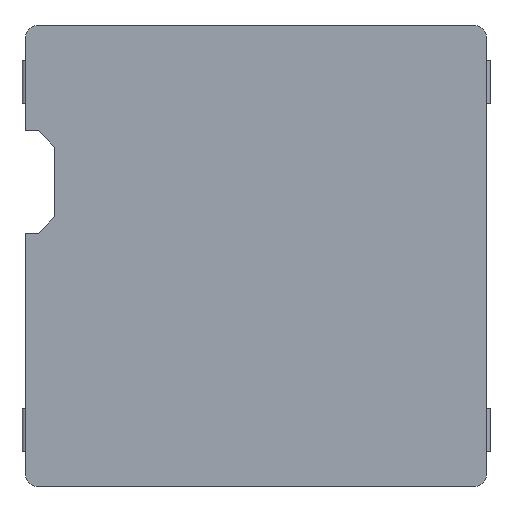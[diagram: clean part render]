
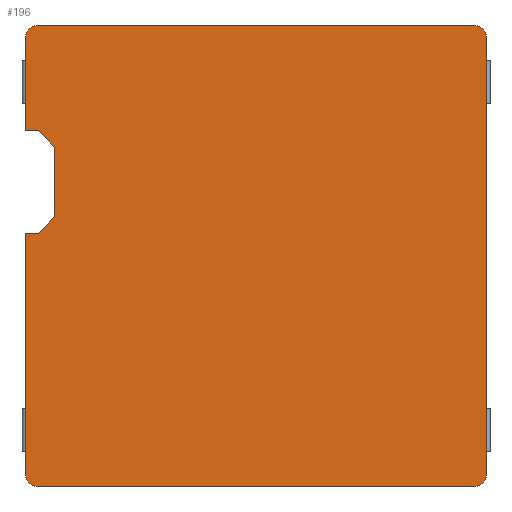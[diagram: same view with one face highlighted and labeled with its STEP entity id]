
A CAD part, front view. The second image highlights one B-rep face of the part: STEP entity #196.
In plain terms, the highlighted planar face has unit normal (0, -1, 0).
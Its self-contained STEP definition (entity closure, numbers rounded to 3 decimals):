
#7 = CARTESIAN_POINT ( 'NONE',  ( -50., 0., -53. ) ) ;
#22 = CARTESIAN_POINT ( 'NONE',  ( 50., 0., 50. ) ) ;
#28 = CIRCLE ( 'NONE', #619, 3. ) ;
#65 = CARTESIAN_POINT ( 'NONE',  ( -53., 0., 53. ) ) ;
#75 = CARTESIAN_POINT ( 'NONE',  ( 50., 0., -53. ) ) ;
#82 = DIRECTION ( 'NONE',  ( -1., 0., 0. ) ) ;
#87 = CIRCLE ( 'NONE', #1021, 3. ) ;
#126 = CARTESIAN_POINT ( 'NONE',  ( -46.2, 0., 9. ) ) ;
#166 = DIRECTION ( 'NONE',  ( 1., 0., 0. ) ) ;
#180 = VERTEX_POINT ( 'NONE', #75 ) ;
#186 = ORIENTED_EDGE ( 'NONE', *, *, #569, .F. ) ;
#187 = DIRECTION ( 'NONE',  ( -0.707, 0., -0.707 ) ) ;
#196 = ADVANCED_FACE ( 'NONE', ( #365 ), #620, .T. ) ;
#203 = ORIENTED_EDGE ( 'NONE', *, *, #1635, .T. ) ;
#211 = LINE ( 'NONE', #466, #1575 ) ;
#217 = CARTESIAN_POINT ( 'NONE',  ( -53., 0., 53. ) ) ;
#245 = EDGE_CURVE ( 'NONE', #534, #1444, #922, .T. ) ;
#280 = CARTESIAN_POINT ( 'NONE',  ( -50., 0., 53. ) ) ;
#281 = LINE ( 'NONE', #577, #1189 ) ;
#284 = EDGE_CURVE ( 'NONE', #916, #340, #211, .T. ) ;
#289 = DIRECTION ( 'NONE',  ( 0., 0., -1. ) ) ;
#291 = ORIENTED_EDGE ( 'NONE', *, *, #671, .F. ) ;
#304 = VERTEX_POINT ( 'NONE', #1625 ) ;
#328 = CARTESIAN_POINT ( 'NONE',  ( 0., 0., 0. ) ) ;
#330 = EDGE_CURVE ( 'NONE', #1444, #423, #815, .T. ) ;
#340 = VERTEX_POINT ( 'NONE', #806 ) ;
#365 = FACE_OUTER_BOUND ( 'NONE', #713, .T. ) ;
#370 = ORIENTED_EDGE ( 'NONE', *, *, #1407, .F. ) ;
#373 = LINE ( 'NONE', #1496, #1228 ) ;
#384 = CARTESIAN_POINT ( 'NONE',  ( -53., 0., -53. ) ) ;
#423 = VERTEX_POINT ( 'NONE', #1660 ) ;
#424 = DIRECTION ( 'NONE',  ( 0., 0., -1. ) ) ;
#428 = VECTOR ( 'NONE', #1063, 1000. ) ;
#432 = DIRECTION ( 'NONE',  ( 0., -1., 0. ) ) ;
#441 = CARTESIAN_POINT ( 'NONE',  ( -50., 0., -50. ) ) ;
#446 = CARTESIAN_POINT ( 'NONE',  ( 53., 0., 50. ) ) ;
#449 = CARTESIAN_POINT ( 'NONE',  ( 50., 0., 53. ) ) ;
#465 = EDGE_CURVE ( 'NONE', #180, #928, #1644, .T. ) ;
#466 = CARTESIAN_POINT ( 'NONE',  ( -53., 0., 5.2 ) ) ;
#491 = VECTOR ( 'NONE', #511, 1000. ) ;
#511 = DIRECTION ( 'NONE',  ( 0., 0., -1. ) ) ;
#534 = VERTEX_POINT ( 'NONE', #723 ) ;
#566 = VERTEX_POINT ( 'NONE', #446 ) ;
#569 = EDGE_CURVE ( 'NONE', #566, #1417, #281, .T. ) ;
#577 = CARTESIAN_POINT ( 'NONE',  ( 53., 0., 53. ) ) ;
#596 = ORIENTED_EDGE ( 'NONE', *, *, #971, .T. ) ;
#619 = AXIS2_PLACEMENT_3D ( 'NONE', #441, #1664, #1263 ) ;
#620 = PLANE ( 'NONE',  #1636 ) ;
#637 = ORIENTED_EDGE ( 'NONE', *, *, #465, .F. ) ;
#660 = EDGE_CURVE ( 'NONE', #304, #1801, #758, .T. ) ;
#671 = EDGE_CURVE ( 'NONE', #953, #340, #1584, .T. ) ;
#713 = EDGE_LOOP ( 'NONE', ( #637, #1792, #186, #596, #370, #733, #1583, #203, #1348, #1065, #1512, #1147, #291, #1704 ) ) ;
#721 = DIRECTION ( 'NONE',  ( 0., 0., -1. ) ) ;
#723 = CARTESIAN_POINT ( 'NONE',  ( -50., 0., 28.8 ) ) ;
#733 = ORIENTED_EDGE ( 'NONE', *, *, #868, .T. ) ;
#758 = LINE ( 'NONE', #65, #814 ) ;
#806 = CARTESIAN_POINT ( 'NONE',  ( -53., 0., 5.2 ) ) ;
#814 = VECTOR ( 'NONE', #1041, 1000. ) ;
#815 = LINE ( 'NONE', #126, #491 ) ;
#834 = CARTESIAN_POINT ( 'NONE',  ( -50., 0., 5.2 ) ) ;
#868 = EDGE_CURVE ( 'NONE', #936, #1801, #932, .T. ) ;
#915 = LINE ( 'NONE', #1708, #1812 ) ;
#916 = VERTEX_POINT ( 'NONE', #834 ) ;
#922 = LINE ( 'NONE', #1176, #428 ) ;
#928 = VERTEX_POINT ( 'NONE', #7 ) ;
#932 = CIRCLE ( 'NONE', #1811, 3. ) ;
#936 = VERTEX_POINT ( 'NONE', #280 ) ;
#953 = VERTEX_POINT ( 'NONE', #1119 ) ;
#971 = EDGE_CURVE ( 'NONE', #566, #1450, #87, .T. ) ;
#1021 = AXIS2_PLACEMENT_3D ( 'NONE', #22, #1544, #289 ) ;
#1027 = EDGE_CURVE ( 'NONE', #423, #916, #1570, .T. ) ;
#1039 = CARTESIAN_POINT ( 'NONE',  ( -50., 0., 5.2 ) ) ;
#1041 = DIRECTION ( 'NONE',  ( 0., 0., 1. ) ) ;
#1063 = DIRECTION ( 'NONE',  ( 0.707, 0., -0.707 ) ) ;
#1064 = CARTESIAN_POINT ( 'NONE',  ( 53., 0., -50. ) ) ;
#1065 = ORIENTED_EDGE ( 'NONE', *, *, #330, .T. ) ;
#1080 = AXIS2_PLACEMENT_3D ( 'NONE', #1620, #1649, #1339 ) ;
#1088 = DIRECTION ( 'NONE',  ( 1., 0., 0. ) ) ;
#1103 = VECTOR ( 'NONE', #1455, 1000. ) ;
#1119 = CARTESIAN_POINT ( 'NONE',  ( -53., 0., -50. ) ) ;
#1126 = CARTESIAN_POINT ( 'NONE',  ( -50., 0., 50. ) ) ;
#1130 = EDGE_CURVE ( 'NONE', #180, #1417, #1784, .T. ) ;
#1147 = ORIENTED_EDGE ( 'NONE', *, *, #284, .T. ) ;
#1148 = DIRECTION ( 'NONE',  ( -1., 0., 0. ) ) ;
#1168 = CARTESIAN_POINT ( 'NONE',  ( -53., 0., 50. ) ) ;
#1176 = CARTESIAN_POINT ( 'NONE',  ( -50., 0., 28.8 ) ) ;
#1189 = VECTOR ( 'NONE', #424, 1000. ) ;
#1228 = VECTOR ( 'NONE', #1088, 1000. ) ;
#1263 = DIRECTION ( 'NONE',  ( 0., 0., -1. ) ) ;
#1299 = EDGE_CURVE ( 'NONE', #953, #928, #28, .T. ) ;
#1305 = DIRECTION ( 'NONE',  ( 0., 0., -1. ) ) ;
#1339 = DIRECTION ( 'NONE',  ( 0., 0., -1. ) ) ;
#1341 = VECTOR ( 'NONE', #187, 1000. ) ;
#1348 = ORIENTED_EDGE ( 'NONE', *, *, #245, .T. ) ;
#1407 = EDGE_CURVE ( 'NONE', #936, #1450, #915, .T. ) ;
#1417 = VERTEX_POINT ( 'NONE', #1064 ) ;
#1422 = CARTESIAN_POINT ( 'NONE',  ( -46.2, 0., 25. ) ) ;
#1444 = VERTEX_POINT ( 'NONE', #1422 ) ;
#1450 = VERTEX_POINT ( 'NONE', #449 ) ;
#1455 = DIRECTION ( 'NONE',  ( 0., 0., 1. ) ) ;
#1496 = CARTESIAN_POINT ( 'NONE',  ( -53., 0., 28.8 ) ) ;
#1512 = ORIENTED_EDGE ( 'NONE', *, *, #1027, .T. ) ;
#1544 = DIRECTION ( 'NONE',  ( 0., -1., 0. ) ) ;
#1570 = LINE ( 'NONE', #1039, #1341 ) ;
#1575 = VECTOR ( 'NONE', #82, 1000. ) ;
#1583 = ORIENTED_EDGE ( 'NONE', *, *, #660, .F. ) ;
#1584 = LINE ( 'NONE', #217, #1103 ) ;
#1606 = VECTOR ( 'NONE', #1148, 1000. ) ;
#1616 = DIRECTION ( 'NONE',  ( 0., -1., 0. ) ) ;
#1620 = CARTESIAN_POINT ( 'NONE',  ( 50., 0., -50. ) ) ;
#1625 = CARTESIAN_POINT ( 'NONE',  ( -53., 0., 28.8 ) ) ;
#1635 = EDGE_CURVE ( 'NONE', #304, #534, #373, .T. ) ;
#1636 = AXIS2_PLACEMENT_3D ( 'NONE', #328, #1616, #1305 ) ;
#1644 = LINE ( 'NONE', #384, #1606 ) ;
#1649 = DIRECTION ( 'NONE',  ( 0., -1., 0. ) ) ;
#1660 = CARTESIAN_POINT ( 'NONE',  ( -46.2, 0., 9. ) ) ;
#1664 = DIRECTION ( 'NONE',  ( 0., -1., 0. ) ) ;
#1704 = ORIENTED_EDGE ( 'NONE', *, *, #1299, .T. ) ;
#1708 = CARTESIAN_POINT ( 'NONE',  ( -53., 0., 53. ) ) ;
#1784 = CIRCLE ( 'NONE', #1080, 3. ) ;
#1792 = ORIENTED_EDGE ( 'NONE', *, *, #1130, .T. ) ;
#1801 = VERTEX_POINT ( 'NONE', #1168 ) ;
#1811 = AXIS2_PLACEMENT_3D ( 'NONE', #1126, #432, #721 ) ;
#1812 = VECTOR ( 'NONE', #166, 1000. ) ;
